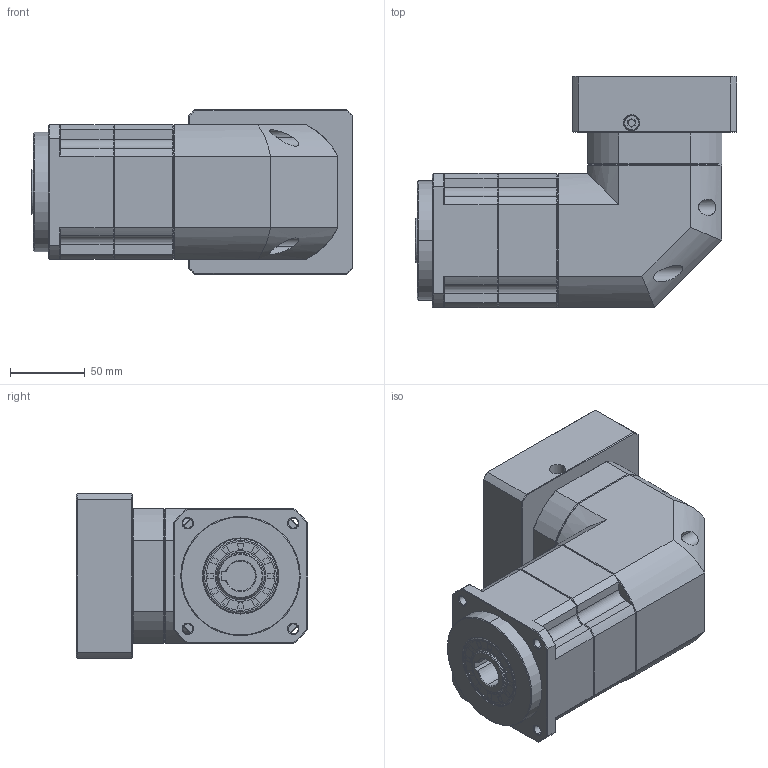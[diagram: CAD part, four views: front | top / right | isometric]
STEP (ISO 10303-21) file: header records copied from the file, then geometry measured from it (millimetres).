
FILE_DESCRIPTION (( 'STEP AP214' ), '1' );
FILE_NAME ('ZPBR090-K20-L2-P1-19-95-130-M8.step', '2024-06-07T18:41:14', ( 'Windows 蚚誧' ), ( 'Organization' ), 'SwSTEP 2.0', 'SolidWorks 2016', '' );
FILE_SCHEMA (( 'AUTOMOTIVE_DESIGN' ));
Length unit declared in the file: millimetre
Products named in the file (1): ZPBR090-K20-L2-P1-19-95-130-M8
Bounding box: 215.5 x 155 x 110 mm (x, y, z)
Surface area: 151315.2 mm2 (no closed solid volume)
Topology: 0 solids, 33 shells, 1867 faces, 4917 edges, 3138 vertices
Faces by surface type: plane 1002, bspline 368, cone 258, cylinder 224, torus 15
Entity records: 85358 total; most frequent: CARTESIAN_POINT 38443, ORIENTED_EDGE 9813, DIRECTION 7685, EDGE_CURVE 4917, LINE 3283, VECTOR 3283, VERTEX_POINT 3138, AXIS2_PLACEMENT_3D 2201
